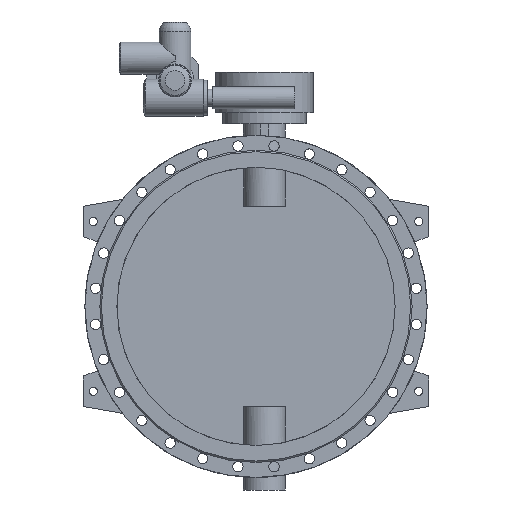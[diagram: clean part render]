
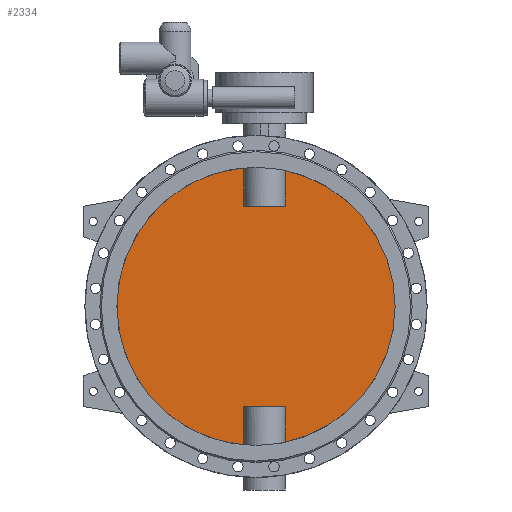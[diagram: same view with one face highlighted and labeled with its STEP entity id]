
A CAD part, front view. The second image highlights one B-rep face of the part: STEP entity #2334.
In plain terms, the highlighted planar face has unit normal (0, -1, 0).
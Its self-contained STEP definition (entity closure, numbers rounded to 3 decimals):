
#2334=ADVANCED_FACE('',(#4747),#4749,.F.);
#4747=FACE_BOUND('',#4748,.T.);
#4748=EDGE_LOOP('',(#5775,#5776,#5777,#5778,#5779,#5780,#5781,#5782));
#4749=PLANE('',#4750);
#4750=AXIS2_PLACEMENT_3D('',#4751,#4752,#4753);
#4751=CARTESIAN_POINT('',(0.,-5.,0.));
#4752=DIRECTION('',(0.,1.,0.));
#4753=DIRECTION('',(1.,0.,0.));
#5775=ORIENTED_EDGE('',*,*,#6290,.T.);
#5776=ORIENTED_EDGE('',*,*,#6295,.T.);
#5777=ORIENTED_EDGE('',*,*,#6296,.T.);
#5778=ORIENTED_EDGE('',*,*,#6297,.T.);
#5779=ORIENTED_EDGE('',*,*,#6292,.T.);
#5780=ORIENTED_EDGE('',*,*,#6298,.T.);
#5781=ORIENTED_EDGE('',*,*,#6299,.T.);
#5782=ORIENTED_EDGE('',*,*,#6300,.T.);
#6290=EDGE_CURVE('',#7203,#7204,#7205,.F.);
#6292=EDGE_CURVE('',#7208,#7206,#7209,.F.);
#6295=EDGE_CURVE('',#7204,#7213,#7214,.T.);
#6296=EDGE_CURVE('',#7213,#7215,#7216,.F.);
#6297=EDGE_CURVE('',#7215,#7208,#7217,.F.);
#6298=EDGE_CURVE('',#7206,#7218,#7219,.F.);
#6299=EDGE_CURVE('',#7218,#7220,#7221,.F.);
#6300=EDGE_CURVE('',#7220,#7203,#7222,.T.);
#7203=VERTEX_POINT('',#11410);
#7204=VERTEX_POINT('',#11411);
#7205=CIRCLE('',#11412,500.);
#7206=VERTEX_POINT('',#11416);
#7208=VERTEX_POINT('',#11514);
#7209=CIRCLE('',#11515,500.);
#7213=VERTEX_POINT('',#11620);
#7214=LINE('',#11621,#11622);
#7215=VERTEX_POINT('',#11624);
#7216=LINE('',#11625,#11626);
#7217=LINE('',#11628,#11629);
#7218=VERTEX_POINT('',#11631);
#7219=LINE('',#11632,#11633);
#7220=VERTEX_POINT('',#11635);
#7221=LINE('',#11636,#11637);
#7222=LINE('',#11639,#11640);
#11410=CARTESIAN_POINT('',(104.833,-5.,-488.887));
#11411=CARTESIAN_POINT('',(104.833,-5.,488.887));
#11412=AXIS2_PLACEMENT_3D('',#11413,#11414,#11415);
#11413=CARTESIAN_POINT('',(0.,-5.,0.));
#11414=DIRECTION('',(0.,1.,0.));
#11415=DIRECTION('',(0.21,0.,0.978));
#11416=CARTESIAN_POINT('',(-44.833,-5.,-497.986));
#11514=CARTESIAN_POINT('',(-44.833,-5.,497.986));
#11515=AXIS2_PLACEMENT_3D('',#11516,#11517,#11518);
#11516=CARTESIAN_POINT('',(0.,-5.,0.));
#11517=DIRECTION('',(0.,1.,0.));
#11518=DIRECTION('',(-0.09,0.,-0.996));
#11620=CARTESIAN_POINT('',(104.833,-5.,360.));
#11621=CARTESIAN_POINT('',(104.833,-5.,488.887));
#11622=VECTOR('',#11623,1.);
#11623=DIRECTION('',(0.,0.,-1.));
#11624=CARTESIAN_POINT('',(-44.833,-5.,360.));
#11625=CARTESIAN_POINT('',(-44.833,-5.,360.));
#11626=VECTOR('',#11627,1.);
#11627=DIRECTION('',(1.,0.,0.));
#11628=CARTESIAN_POINT('',(-44.833,-5.,497.986));
#11629=VECTOR('',#11630,1.);
#11630=DIRECTION('',(0.,0.,-1.));
#11631=CARTESIAN_POINT('',(-44.833,-5.,-360.));
#11632=CARTESIAN_POINT('',(-44.833,-5.,-360.));
#11633=VECTOR('',#11634,1.);
#11634=DIRECTION('',(0.,0.,-1.));
#11635=CARTESIAN_POINT('',(104.833,-5.,-360.));
#11636=CARTESIAN_POINT('',(104.833,-5.,-360.));
#11637=VECTOR('',#11638,1.);
#11638=DIRECTION('',(-1.,0.,0.));
#11639=CARTESIAN_POINT('',(104.833,-5.,-360.));
#11640=VECTOR('',#11641,1.);
#11641=DIRECTION('',(0.,0.,-1.));
